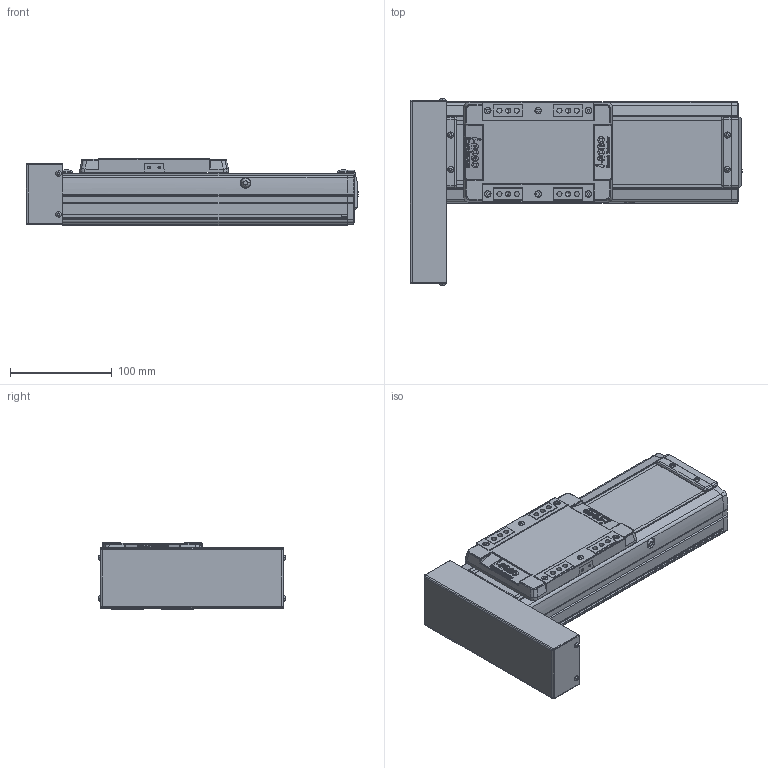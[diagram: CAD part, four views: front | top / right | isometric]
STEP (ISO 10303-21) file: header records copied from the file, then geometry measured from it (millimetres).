
FILE_DESCRIPTION(('STEP AP214'),'1');
FILE_NAME('Z:/Web/3D/SAN100/SAN100 양산용 (STEP)/SAN100ㅁㅁ-100PR.stp','2013-04-24T06:43:35',(' '),(' '),'Spatial InterOp 3D',' ',' ');
FILE_SCHEMA(('automotive_design'));
Length unit declared in the file: millimetre
Products named in the file (29): SUS COVER; SFX-SAN100; RRCV-SAN100; 스크루 : Round - M4.0 x 10.0; M3.0 x 6.0; 스크루 : Round - M3.0 x 6.0; FRBL-SAN100; SLBL-SAN100; SLCV-SAN100; 스크루 : Countersunk - M3.0 x 6.0; BASE; 스크루 : Round - M5.0 x 6.0; BTCV-SAN65; BHCS M3 X 6L
Bounding box: 326.5 x 184.13 x 66 mm (x, y, z)
Volume: 1300721.6 mm3; surface area: 301930.6 mm2
Topology: 29 solids, 30 shells, 1778 faces, 4638 edges, 2987 vertices
Faces by surface type: plane 901, cylinder 653, cone 150, sphere 40, torus 18, bspline 16
Entity records: 69998 total; most frequent: CARTESIAN_POINT 10506, DIRECTION 9761, ORIENTED_EDGE 9128, EDGE_CURVE 4564, AXIS2_PLACEMENT_3D 3471, VERTEX_POINT 2987, LINE 2819, VECTOR 2819
